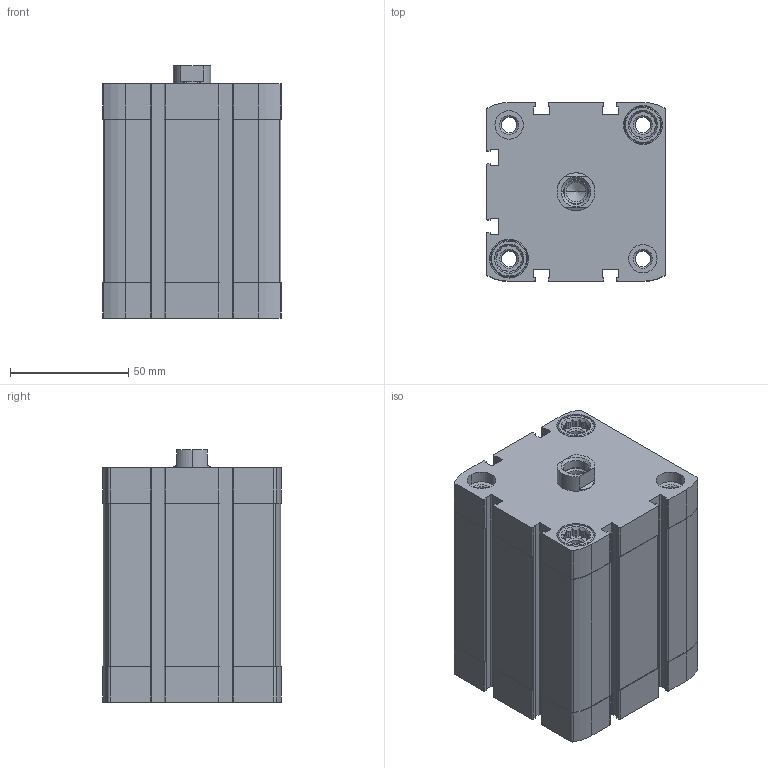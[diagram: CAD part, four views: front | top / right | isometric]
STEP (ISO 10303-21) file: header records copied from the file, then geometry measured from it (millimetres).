
FILE_DESCRIPTION (( 'STEP AP203' ), '1' );
FILE_NAME ('CCN63-50F.STEP', '2017-04-05T15:44:49', ( '' ), ( '' ), 'SwSTEP 2.0', 'SolidWorks 2016', '' );
FILE_SCHEMA (( 'CONFIG_CONTROL_DESIGN' ));
Length unit declared in the file: millimetre
Products named in the file (3): CCN-50---(Z); CCN-50_(KS); CCN63-50F
Assembly tree (2 placements, depth 2):
  CCN63-50F
    CCN-50---(Z)
    CCN-50_(KS)
Bounding box: 75.5 x 75.5 x 106.5 mm (x, y, z)
Volume: 371403.2 mm3; surface area: 93119.9 mm2
Topology: 2 solids, 2 shells, 471 faces, 1276 edges, 839 vertices
Faces by surface type: plane 219, cylinder 210, cone 42
Entity records: 15329 total; most frequent: CARTESIAN_POINT 2883, DIRECTION 2600, ORIENTED_EDGE 2548, EDGE_CURVE 1274, AXIS2_PLACEMENT_3D 948, VERTEX_POINT 839, VECTOR 704, LINE 704
